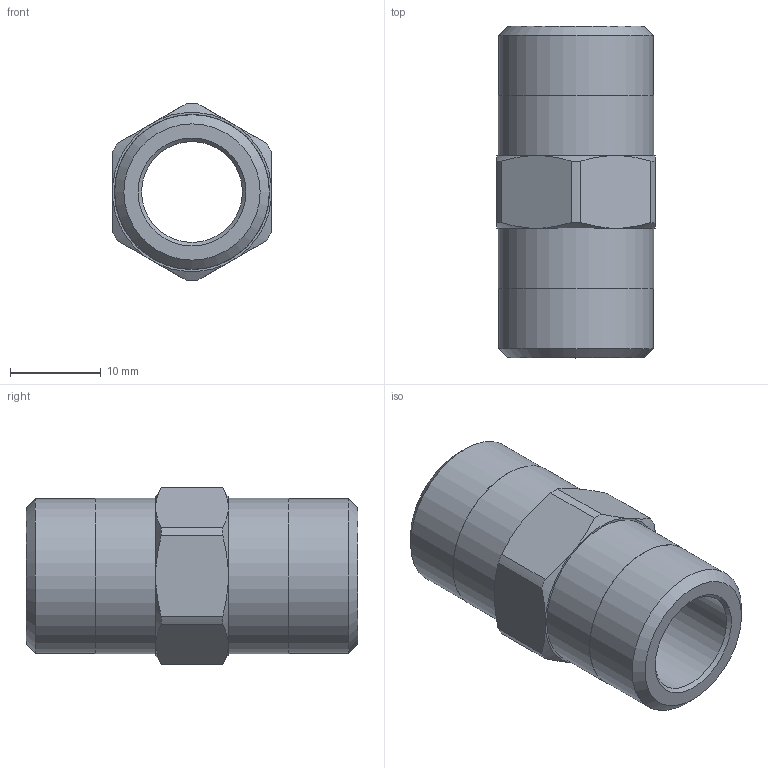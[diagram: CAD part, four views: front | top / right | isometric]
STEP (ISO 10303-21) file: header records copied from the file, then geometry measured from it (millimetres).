
FILE_DESCRIPTION(/* description */ (''),/* implementation_level */ '2;1');
FILE_NAME(/* name */ 'C:/Users/drich/Desktop/HN-38 v1.step',/* time_stamp */ '2020-02-09T10:57:01-06:00',/* author */ (''),/* organization */ (''),/* preprocessor_version */ 'ST-DEVELOPER v18',/* originating_system */ 'Autodesk Translation Framework v8.12.0.6',/* authorisation */ '');
FILE_SCHEMA (('AUTOMOTIVE_DESIGN { 1 0 10303 214 3 1 1 }'));
Length unit declared in the file: inch
Products named in the file (1): HN-38
Bounding box: 17.45 x 36.5 x 19.55 mm (x, y, z)
Volume: 5001.7 mm3; surface area: 3503.7 mm2
Topology: 1 solids, 1 shells, 39 faces, 105 edges, 72 vertices
Faces by surface type: cone 16, plane 12, cylinder 11
Full cylindrical faces by diameter (mm): 11.1 x1, 17.018 x2, 17.069 x2
Entity records: 1277 total; most frequent: CARTESIAN_POINT 265, ORIENTED_EDGE 210, DIRECTION 209, EDGE_CURVE 105, AXIS2_PLACEMENT_3D 88, VERTEX_POINT 72, CIRCLE 48, EDGE_LOOP 45
